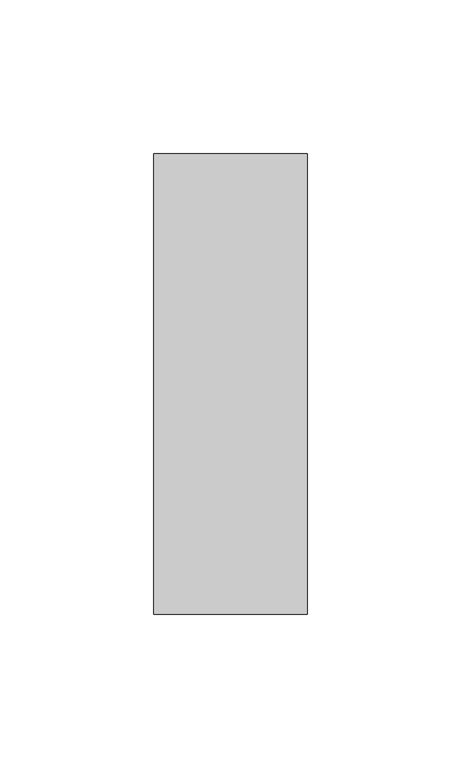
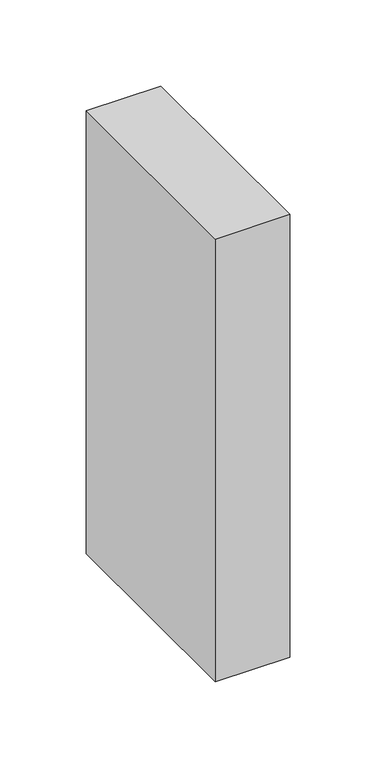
"""IFC4 building model written with IfcOpenShell, lengths in millimetres: member geometry, Прямоугольный импост : 50х150мм."""

from ifc_helpers import new_model, si_unit, frame, origin, place, context, project, spatial, polyline, outline, extrude, source, transform, mapped, element, save


def member_e6dd4257(model_context):
    return source(origin(), model_context, "Body", "SweptSolid", [
        extrude(outline(polyline([(0.0, 75.0), (0.0, -75.0), (-50.0, -75.0), (-50.0, 75.0), (0.0, 75.0)])), frame((0.0, 0.0, -314.007607), z_axis=(0.0, 0.0, 1.0), x_axis=(1.0, 0.0, 0.0)), (0.0, 0.0, 1.0), 314.007607),
    ])


if __name__ == "__main__":
    model = new_model("IFC4")
    model_context = context("Model", 3, world=origin())
    ifc_project = project(units=[si_unit("LENGTHUNIT", "METRE", prefix="MILLI")], contexts=[model_context])
    site = spatial("IfcSite", under=ifc_project)
    building = spatial("IfcBuilding", under=site)
    placement = place(None, origin())
    member_shape = member_e6dd4257(model_context)
    element("IfcMember", 1, ObjectType="Прямоугольный импост : 50х150мм", at=placement, inside=building, context=model_context, shape_type="MappedRepresentation", body=[
        mapped(member_shape, transform((0.0, 0.0, 0.0), x_axis=(1.0, 0.0, 0.0), y_axis=(0.0, 1.0, 0.0), z_axis=(0.0, 0.0, 1.0))),
    ])
    save(model, "model.ifc")
